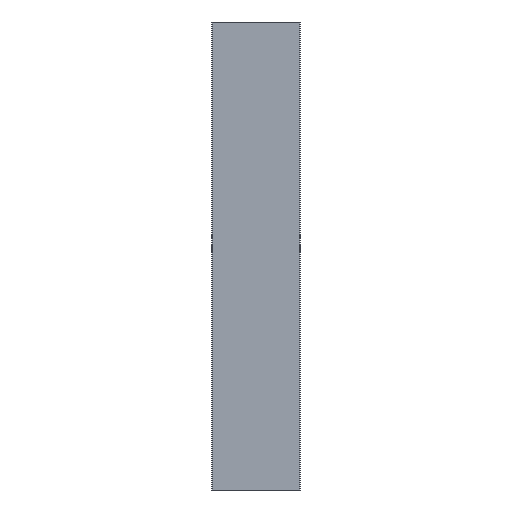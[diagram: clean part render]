
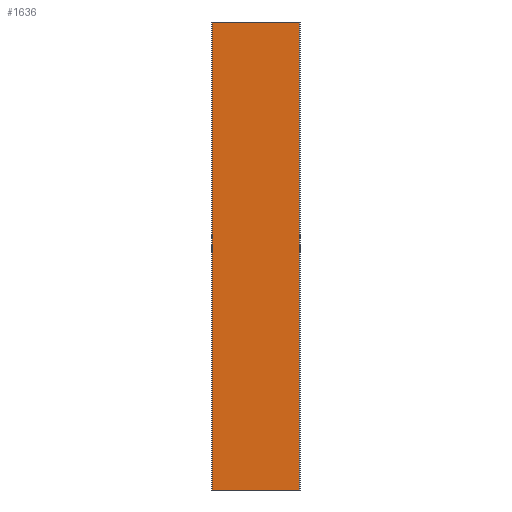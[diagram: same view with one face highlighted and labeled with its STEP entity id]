
A CAD part, left-side view. The second image highlights one B-rep face of the part: STEP entity #1636.
In plain terms, the highlighted planar face has unit normal (-1, 0, 0).
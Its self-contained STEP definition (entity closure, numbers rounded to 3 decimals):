
#50=PLANE('',#1732);
#112=FACE_OUTER_BOUND('',#197,.T.);
#197=EDGE_LOOP('',(#1162,#1163,#1164,#1165));
#298=LINE('',#2304,#487);
#299=LINE('',#2307,#488);
#300=LINE('',#2309,#489);
#301=LINE('',#2310,#490);
#487=VECTOR('',#1852,10.);
#488=VECTOR('',#1855,10.);
#489=VECTOR('',#1856,10.);
#490=VECTOR('',#1857,10.);
#717=VERTEX_POINT('',#2300);
#718=VERTEX_POINT('',#2302);
#719=VERTEX_POINT('',#2306);
#720=VERTEX_POINT('',#2308);
#898=EDGE_CURVE('',#717,#718,#298,.T.);
#899=EDGE_CURVE('',#717,#719,#299,.T.);
#900=EDGE_CURVE('',#720,#718,#300,.T.);
#901=EDGE_CURVE('',#719,#720,#301,.T.);
#1162=ORIENTED_EDGE('',*,*,#899,.F.);
#1163=ORIENTED_EDGE('',*,*,#898,.T.);
#1164=ORIENTED_EDGE('',*,*,#900,.F.);
#1165=ORIENTED_EDGE('',*,*,#901,.F.);
#1636=ADVANCED_FACE('',(#112),#50,.T.);
#1732=AXIS2_PLACEMENT_3D('',#2305,#1853,#1854);
#1852=DIRECTION('',(0.,0.,-1.));
#1853=DIRECTION('center_axis',(-1.,0.,0.));
#1854=DIRECTION('ref_axis',(0.,1.,0.));
#1855=DIRECTION('',(0.,-1.,0.));
#1856=DIRECTION('',(0.,1.,0.));
#1857=DIRECTION('',(0.,0.,-1.));
#2300=CARTESIAN_POINT('',(0.,18.827,0.));
#2302=CARTESIAN_POINT('',(0.,18.827,-100.));
#2304=CARTESIAN_POINT('',(0.,18.827,0.));
#2305=CARTESIAN_POINT('Origin',(0.,0.205,0.));
#2306=CARTESIAN_POINT('',(0.,0.205,0.));
#2307=CARTESIAN_POINT('',(0.,18.827,0.));
#2308=CARTESIAN_POINT('',(0.,0.205,-100.));
#2309=CARTESIAN_POINT('',(0.,18.827,-100.));
#2310=CARTESIAN_POINT('',(0.,0.205,0.));
